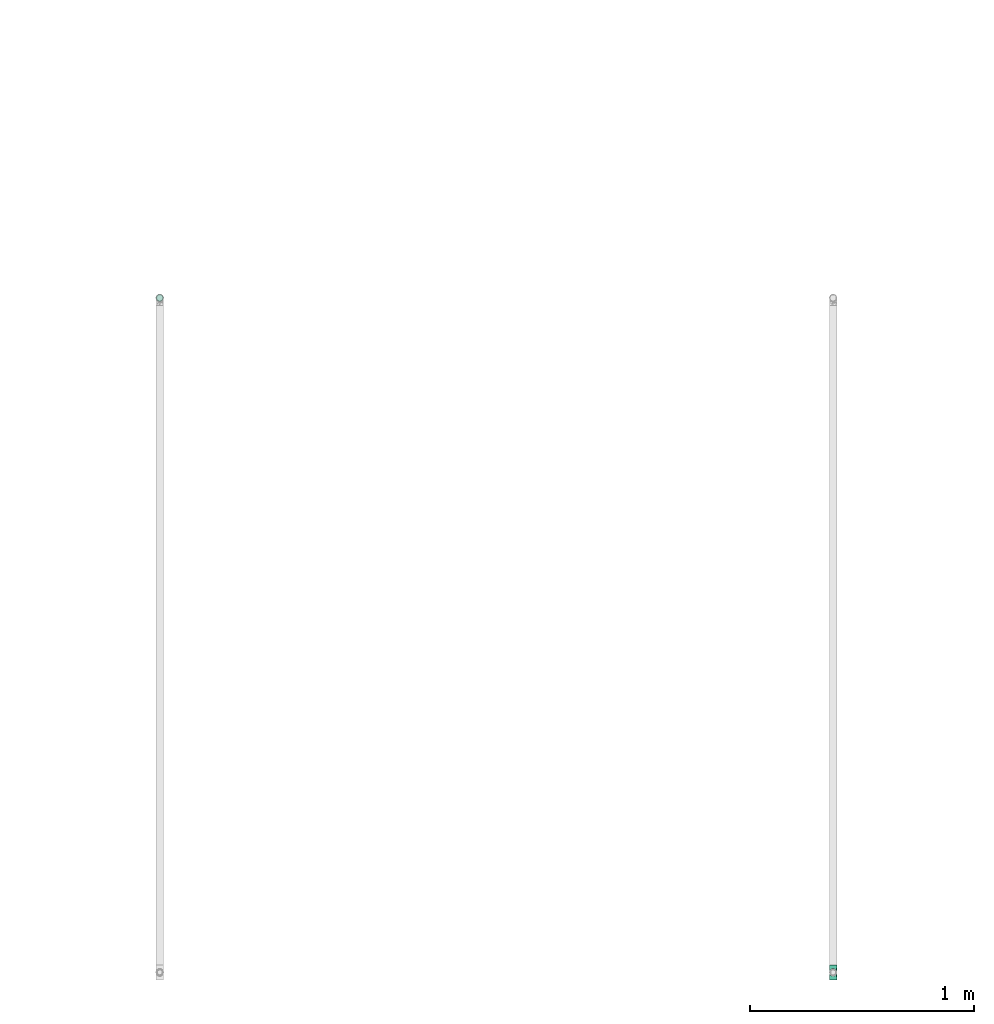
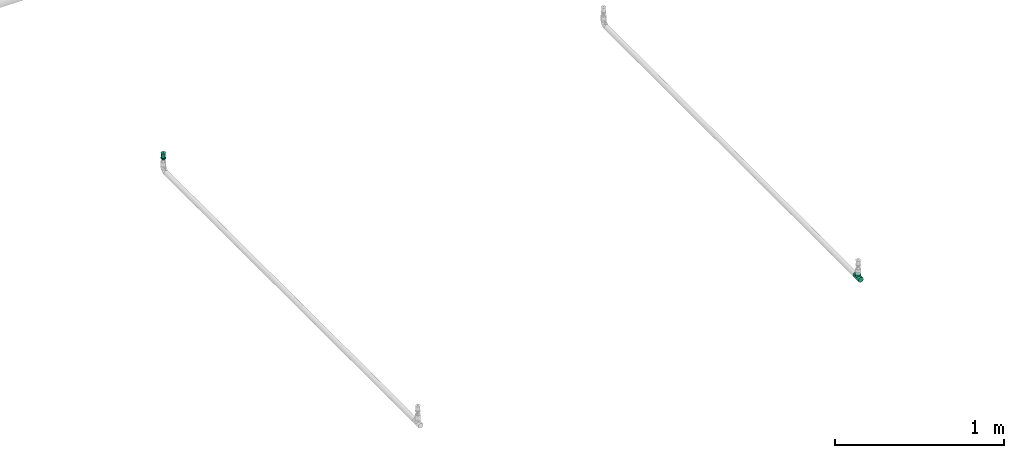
# One storey, part 24 of 94: 1 flow fitting, 1 flow terminal.
"""IFC2X3 building model written with IfcOpenShell, lengths in millimetres."""

from ifc_helpers import new_model, entity, si_unit, converted_unit, derived_unit, direction, frame, origin_with_axes, place, context, subcontext, project, spatial, open_shell, surface_model, source, transform, mapped, type_object, element, save


model = new_model("IFC2X3")

# Units and contexts
model_context = context("Model", 3, precision=0.01, world=frame((0.0, 4.29681676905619e-09, 0.0)), true_north=direction((4.01073788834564e-13, 1.0)))
plan_context = context("Plan", 3, precision=0.01, world=frame((0.0, 4.29681676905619e-09, 0.0)), true_north=direction((4.01073788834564e-13, 1.0)))
body_context = subcontext(model_context, "Body", "Model", "MODEL_VIEW")
ifc_project = project(units=[converted_unit("PLANEANGLEUNIT", "DEGREE", entity("IfcPositiveLengthMeasure", 0.0174532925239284), si_unit("PLANEANGLEUNIT", "RADIAN"), dimensions=[0, 0, 0, 0, 0, 0, 0]), si_unit("AREAUNIT", "SQUARE_METRE"), si_unit("LENGTHUNIT", "METRE", prefix="MILLI"), si_unit("MASSUNIT", "GRAM", prefix="KILO"), si_unit("POWERUNIT", "WATT"), si_unit("PRESSUREUNIT", "PASCAL"), si_unit("FORCEUNIT", "NEWTON", prefix="KILO"), si_unit("ELECTRICCURRENTUNIT", "AMPERE"), si_unit("THERMODYNAMICTEMPERATUREUNIT", "DEGREE_CELSIUS"), si_unit("TIMEUNIT", "SECOND"), si_unit("VOLUMEUNIT", "CUBIC_METRE"), derived_unit("LINEARVELOCITYUNIT", [(si_unit("LENGTHUNIT", "METRE"), 1), (si_unit("TIMEUNIT", "SECOND"), -1)]), derived_unit("VOLUMETRICFLOWRATEUNIT", [(si_unit("VOLUMEUNIT", "CUBIC_METRE"), 1), (si_unit("TIMEUNIT", "SECOND"), -1)]), derived_unit("THERMALTRANSMITTANCEUNIT", [(si_unit("POWERUNIT", "WATT"), 1), (si_unit("THERMODYNAMICTEMPERATUREUNIT", "KELVIN"), -1), (si_unit("AREAUNIT", "SQUARE_METRE"), -1)])], contexts=[model_context, plan_context])

# Site, building, storey
site_placement = place(None, frame((0.0, -4.29681676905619e-09, 0.0), z_axis=(0.0, 0.0, 1.0), x_axis=(1.0, 0.0, 0.0)))
site = spatial("IfcSite", under=ifc_project, at=site_placement, CompositionType="ELEMENT")
building_placement = place(site_placement, frame((0.0, 4.29681676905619e-09, 0.0), z_axis=(0.0, 0.0, 1.0), x_axis=(1.0, 0.0, 0.0)))
building = spatial("IfcBuilding", under=site, at=building_placement, Name="mc-building", CompositionType="ELEMENT")
storey_placement = place(building_placement, frame((0.0, 0.0, 200300.0), z_axis=(0.0, 0.0, 1.0), x_axis=(1.0, 0.0, 0.0)))
storey = spatial("IfcBuildingStorey", under=building, at=storey_placement, Name="Nivå C", CompositionType="ELEMENT", Elevation=200300.0)

# Flow fitting
pipe_fitting_type = type_object("IfcPipeFittingType", Name="magi_pipe_fe_tee_centric_90_NOR", PredefinedType="JUNCTION")
shared_shape_1 = source(origin_with_axes(), body_context, "Body", "SurfaceModel", [
    surface_model("IfcShellBasedSurfaceModel", [(-33.8, 4.37404, -16.32415), (-33.8, 0.0, -16.9), (-33.8, 16.32415, -4.37404), (-33.8, 8.45, -14.63583), (-33.8, 11.9501, -11.9501), (-33.8, 14.63583, -8.45), (-33.8, -16.9, 0.0), (-33.8, -11.9501, -11.9501), (-33.8, -14.63583, -8.45), (-33.8, -8.45, -14.63583), (-33.8, -4.37404, -16.32415), (-33.8, -16.32415, -4.37404), (-33.8, 14.63583, 8.45), (-33.8, 16.32415, 4.37404), (-33.8, -8.45, 14.63583), (-33.8, 8.45, 14.63583), (-33.8, 11.9501, 11.9501), (-33.8, 4.37404, 16.32415), (-33.8, 0.0, 16.9), (-33.8, -11.9501, 11.9501), (-33.8, -14.63583, 8.45), (-33.8, -16.32415, 4.37404), (-33.8, -4.37404, 16.32415), (-33.8, 16.9, 0.0), (33.8, 4.37404, -16.32415), (33.8, -16.9, 0.0), (33.8, 0.0, -16.9), (33.8, 14.63583, -8.45), (33.8, 8.45, -14.63583), (33.8, 16.32415, -4.37404), (33.8, 11.9501, -11.9501), (33.8, -16.32415, 4.37404), (33.8, -8.45, -14.63583), (33.8, -4.37404, -16.32415), (33.8, -11.9501, -11.9501), (33.8, -14.63583, -8.45), (33.8, -16.32415, -4.37404), (33.8, 16.32415, 4.37404), (33.8, 8.45, 14.63583), (33.8, 14.63583, 8.45), (33.8, 11.9501, 11.9501), (33.8, -8.45, 14.63583), (33.8, 4.37404, 16.32415), (33.8, -14.63583, 8.45), (33.8, -11.9501, 11.9501), (33.8, 0.0, 16.9), (33.8, -4.37404, 16.32415), (33.8, 16.9, 0.0), (16.28698, -16.28698, 4.51047), (16.9, -16.9, 0.0), (14.62704, -14.62704, 8.4652), (9.47213, -9.47213, 13.99602), (12.26343, -12.26343, 11.62834), (-16.9, -16.9, 0.0), (-16.28698, -16.28698, 4.51047), (-14.62704, -14.62704, 8.4652), (-12.26343, -12.26343, 11.62834), (-9.47213, -9.47213, 13.99602), (-6.42894, -6.42894, 15.62942), (6.42894, -6.42894, 15.62942), (3.24522, -3.24522, 16.58549), (0.0, 0.0, 16.9), (-3.24522, -3.24522, 16.58549), (3.24522, -3.24522, -16.58549), (0.0, 0.0, -16.9), (-3.24522, -3.24522, -16.58549), (-6.42894, -6.42894, -15.62942), (6.42894, -6.42894, -15.62942), (9.47213, -9.47213, -13.99602), (12.26343, -12.26343, -11.62834), (14.62704, -14.62704, -8.4652), (16.28698, -16.28698, -4.51047), (-9.47213, -9.47213, -13.99602), (-12.26343, -12.26343, -11.62834), (-16.28698, -16.28698, -4.51047), (-14.62704, -14.62704, -8.4652), (4.37404, -25.35, -16.32415), (-16.9, -25.35, 0.0), (0.0, -25.35, -16.9), (14.63583, -25.35, -8.45), (8.45, -25.35, -14.63583), (16.32415, -25.35, -4.37404), (11.9501, -25.35, -11.9501), (-11.9501, -25.35, -11.9501), (-8.45, -25.35, -14.63583), (-4.37404, -25.35, -16.32415), (-14.63583, -25.35, -8.45), (-16.32415, -25.35, -4.37404), (16.9, -25.35, 0.0), (8.45, -25.35, 14.63583), (16.32415, -25.35, 4.37404), (14.63583, -25.35, 8.45), (-8.45, -25.35, 14.63583), (11.9501, -25.35, 11.9501), (4.37404, -25.35, 16.32415), (-16.32415, -25.35, 4.37404), (-11.9501, -25.35, 11.9501), (-14.63583, -25.35, 8.45), (0.0, -25.35, 16.9), (-4.37404, -25.35, 16.32415)], [open_shell([[[0, 1, 2]], [[3, 0, 4]], [[0, 2, 5]], [[4, 0, 5]], [[6, 2, 1]], [[7, 8, 9]], [[1, 10, 9]], [[11, 6, 8]], [[1, 9, 8]], [[1, 8, 6]], [[6, 12, 2]], [[12, 13, 2]], [[14, 12, 6]], [[12, 14, 15]], [[16, 12, 15]], [[17, 15, 18]], [[19, 14, 20]], [[21, 20, 14]], [[22, 18, 14]], [[14, 6, 21]], [[14, 18, 15]], [[23, 2, 13]], [[24, 25, 26]], [[27, 24, 28]], [[27, 29, 24]], [[27, 28, 30]], [[31, 25, 24]], [[26, 32, 33]], [[26, 34, 32]], [[35, 25, 36]], [[35, 34, 26]], [[25, 35, 26]], [[24, 29, 31]], [[29, 37, 38]], [[38, 37, 39]], [[38, 31, 29]], [[38, 39, 40]], [[41, 38, 42]], [[43, 41, 44]], [[41, 43, 31]], [[41, 45, 46]], [[41, 31, 38]], [[42, 45, 41]], [[29, 47, 37]], [[31, 43, 48]], [[25, 31, 49]], [[49, 31, 48]], [[43, 50, 48]], [[44, 41, 51]], [[50, 43, 52]], [[51, 52, 44]], [[52, 43, 44]], [[53, 54, 21]], [[53, 21, 6]], [[21, 54, 20]], [[54, 55, 20]], [[56, 57, 19]], [[19, 20, 56]], [[19, 57, 14]], [[56, 20, 55]], [[14, 57, 58]], [[51, 41, 59]], [[60, 45, 61]], [[59, 46, 60]], [[46, 59, 41]], [[60, 46, 45]], [[61, 45, 42]], [[39, 37, 13]], [[16, 38, 40]], [[12, 40, 39]], [[42, 38, 15]], [[23, 37, 47]], [[62, 61, 18]], [[62, 22, 58]], [[22, 62, 18]], [[58, 22, 14]], [[61, 17, 18]], [[42, 17, 61]], [[15, 17, 42]], [[15, 38, 16]], [[12, 16, 40]], [[13, 12, 39]], [[37, 23, 13]], [[5, 27, 30]], [[23, 47, 29]], [[30, 28, 3]], [[27, 2, 29]], [[26, 33, 63]], [[26, 64, 24]], [[64, 26, 63]], [[28, 24, 0]], [[64, 0, 24]], [[4, 30, 3]], [[2, 27, 5]], [[5, 30, 4]], [[2, 23, 29]], [[65, 66, 10]], [[1, 0, 64]], [[1, 65, 10]], [[66, 9, 10]], [[0, 3, 28]], [[1, 64, 65]], [[63, 33, 67]], [[32, 34, 68]], [[69, 68, 34]], [[35, 70, 69]], [[69, 34, 35]], [[32, 68, 67]], [[36, 25, 49]], [[36, 71, 35]], [[71, 36, 49]], [[35, 71, 70]], [[72, 9, 66]], [[72, 7, 9]], [[7, 72, 73]], [[7, 73, 8]], [[74, 53, 11]], [[75, 74, 8]], [[74, 11, 8]], [[11, 53, 6]], [[75, 8, 73]], [[32, 67, 33]], [[76, 77, 78]], [[79, 76, 80]], [[79, 81, 76]], [[79, 80, 82]], [[77, 76, 81]], [[78, 83, 84]], [[84, 85, 78]], [[86, 77, 87]], [[83, 78, 86]], [[77, 86, 78]], [[81, 88, 77]], [[89, 88, 90]], [[89, 90, 91]], [[92, 77, 89]], [[89, 91, 93]], [[92, 89, 94]], [[95, 96, 97]], [[96, 95, 92]], [[92, 98, 99]], [[95, 77, 92]], [[94, 98, 92]], [[89, 77, 88]], [[77, 95, 53]], [[54, 53, 95]], [[97, 96, 56]], [[96, 92, 57]], [[95, 97, 54]], [[58, 92, 99]], [[55, 54, 97]], [[56, 55, 97]], [[58, 57, 92]], [[98, 61, 62]], [[58, 99, 62]], [[56, 96, 57]], [[62, 99, 98]], [[94, 60, 98]], [[89, 59, 94]], [[91, 90, 48]], [[52, 93, 91]], [[93, 51, 89]], [[49, 90, 88]], [[59, 60, 94]], [[51, 59, 89]], [[49, 48, 90]], [[50, 52, 91]], [[48, 50, 91]], [[51, 93, 52]], [[98, 60, 61]], [[88, 81, 49]], [[71, 49, 81]], [[79, 82, 69]], [[82, 80, 68]], [[81, 79, 71]], [[67, 80, 76]], [[70, 71, 79]], [[69, 70, 79]], [[67, 68, 80]], [[78, 64, 63]], [[67, 76, 63]], [[69, 82, 68]], [[63, 76, 78]], [[85, 65, 78]], [[84, 66, 85]], [[86, 87, 74]], [[86, 73, 83]], [[72, 84, 83]], [[53, 87, 77]], [[66, 65, 85]], [[72, 66, 84]], [[53, 74, 87]], [[75, 73, 86]], [[74, 75, 86]], [[72, 83, 73]], [[78, 65, 64]]])]),
])
flow_fitting_placement = place(storey_placement, frame((527508.12395, 400928.19532, 2900.0), z_axis=(-1.0, 0.0, 0.0), x_axis=(0.0, 1.0, 0.0)))
element("IfcFlowFitting", 1, at=flow_fitting_placement, inside=storey, type_object=pipe_fitting_type, Name="magi_pipe_fe_tee_centric_90_NOR", context=body_context, shape_type="MappedRepresentation", body=[
    mapped(shared_shape_1, transform((0.0, 0.0, 0.0), scale=1.0)),
])

# Flow terminal
fire_suppression_terminal_type = type_object("IfcFireSuppressionTerminalType", Name="68DGR-STD-STÅENDE", PredefinedType="NOTDEFINED")
shared_shape_2 = source(origin_with_axes(), body_context, "Body", "SurfaceModel", [
    surface_model("IfcShellBasedSurfaceModel", [(12.55704, 3.36465, 21.14766), (13.0, 0.0, 21.14766), (12.55704, -3.36465, 21.14766), (-12.55704, -3.36465, 21.14766), (-11.25833, -6.5, 21.14766), (-11.25833, -6.5, 51.0), (3.36465, -12.55704, 51.0), (3.36465, -12.55704, 21.14766), (6.5, -11.25833, 21.14766), (9.19239, -9.19239, 21.14766), (11.25833, -6.5, 21.14766), (9.19239, -9.19239, 51.0), (6.5, -11.25833, 51.0), (11.25833, -6.5, 51.0), (12.55704, -3.36465, 51.0), (13.0, 0.0, 51.0), (9.19239, 9.19239, 51.0), (11.25833, 6.5, 21.14766), (9.19239, 9.19239, 21.14766), (11.25833, 6.5, 51.0), (12.55704, 3.36465, 51.0), (6.5, 11.25833, 51.0), (6.5, 11.25833, 21.14766), (3.36465, 12.55704, 21.14766), (3.36465, 12.55704, 51.0), (-11.25833, 6.5, 51.0), (-11.25833, 6.5, 21.14766), (-12.55704, 3.36465, 21.14766), (0.0, -2.5, 51.0), (-2.5, 0.0, 51.0), (0.0, 2.5, 51.0), (2.5, 0.0, 51.0), (11.31371, 11.31371, 53.0), (-11.31371, 11.31371, 53.0), (-11.31371, -11.31371, 53.0), (11.31371, -11.31371, 53.0), (1.62635, 1.62635, 51.0), (2.16506, 1.25, 51.0), (1.99186, 1.15, 51.0), (-1.76777, 1.76777, 51.0), (-1.25, 2.16506, 51.0), (-1.62635, 1.62635, 51.0), (1.99186, -1.15, 51.0), (2.16506, -1.25, 51.0), (1.62635, -1.62635, 51.0), (-1.62635, -1.62635, 51.0), (-1.25, -2.16506, 51.0), (-1.76777, -1.76777, 51.0), (0.0, 7.3, 0.0), (1.94114, 7.24444, 0.0), (1.88938, 7.05126, 0.0), (5.16188, 5.16188, 0.0), (6.49519, 3.75, 0.0), (6.32199, 3.65, 0.0), (-5.3033, 5.3033, 0.0), (-3.75, 6.49519, 0.0), (-5.16188, 5.16188, 0.0), (6.32199, -3.65, 0.0), (6.49519, -3.75, 0.0), (5.16188, -5.16188, 0.0), (1.88938, -7.05126, 0.0), (1.94114, -7.24444, 0.0), (0.0, -7.3, 0.0), (-5.16188, -5.16188, 0.0), (-3.75, -6.49519, 0.0), (-5.3033, -5.3033, 0.0), (-3.36465, 12.55704, 51.0), (-6.5, 11.25833, 51.0), (0.0, 13.0, 51.0), (-9.19239, 9.19239, 51.0), (0.0, -13.0, 51.0), (-9.19239, -9.19239, 51.0), (-12.55704, -3.36465, 51.0), (-6.5, -11.25833, 51.0), (-3.36465, -12.55704, 51.0), (-7.5, 0.0, -0.1), (-7.24444, 1.94114, 0.1), (-7.24444, 1.94114, -0.1), (-6.49519, 3.75, 0.1), (-6.49519, 3.75, -0.1), (-3.75, 6.49519, -0.1), (-5.3033, 5.3033, -0.1), (-3.75, 6.49519, 0.1), (-5.3033, 5.3033, 0.1), (-1.94114, 7.24444, -0.1), (-1.94114, 7.24444, 0.1), (-7.5, 0.0, 0.1), (0.0, 7.5, 0.1), (0.0, 7.5, -0.1), (1.94114, 7.24444, 0.1), (1.94114, 7.24444, -0.1), (3.75, 6.49519, 0.1), (3.75, 6.49519, -0.1), (6.49519, 3.75, -0.1), (5.3033, 5.3033, -0.1), (6.49519, 3.75, 0.1), (5.3033, 5.3033, 0.1), (7.24444, 1.94114, -0.1), (7.24444, 1.94114, 0.1), (7.5, 0.0, 0.1), (7.5, 0.0, -0.1), (-7.24444, -1.94114, 0.1), (7.24444, -1.94114, 0.1), (5.3033, -5.3033, 0.1), (6.49519, -3.75, 0.1), (-6.49519, -3.75, 0.1), (0.0, -7.5, 0.1), (1.94114, -7.24444, 0.1), (3.75, -6.49519, 0.1), (-3.75, -6.49519, 0.1), (-1.94114, -7.24444, 0.1), (-5.3033, -5.3033, 0.1), (0.0, -7.5, -0.1), (-6.49519, -3.75, -0.1), (1.94114, -7.24444, -0.1), (3.75, -6.49519, -0.1), (5.3033, -5.3033, -0.1), (7.24444, -1.94114, -0.1), (6.49519, -3.75, -0.1), (-3.75, -6.49519, -0.1), (-5.3033, -5.3033, -0.1), (-1.94114, -7.24444, -0.1), (-7.24444, -1.94114, -0.1), (16.0, 0.0, 53.0), (0.0, -16.0, 53.0), (-16.0, 0.0, 53.0), (0.0, 16.0, 53.0), (0.64705, 2.41481, 57.0), (0.0, 2.5, 57.0), (1.25, 2.16506, 57.0), (-2.5, 0.0, 57.0), (1.76777, 1.76777, 57.0), (2.41481, 0.64705, 57.0), (2.16506, 1.25, 57.0), (-0.64705, 2.41481, 57.0), (-1.25, 2.16506, 57.0), (-1.76777, 1.76777, 57.0), (-2.16506, 1.25, 57.0), (-2.41481, 0.64705, 57.0), (2.5, 0.0, 57.0), (1.76777, -1.76777, 57.0), (2.16506, -1.25, 57.0), (2.41481, -0.64705, 57.0), (-2.41481, -0.64705, 57.0), (0.64705, -2.41481, 57.0), (1.25, -2.16506, 57.0), (0.0, -2.5, 57.0), (-1.76777, -1.76777, 57.0), (-2.16506, -1.25, 57.0), (-1.25, -2.16506, 57.0), (-0.64705, -2.41481, 57.0), (1.15, -1.99186, 51.0), (1.76777, -1.76777, 51.0), (1.25, -2.16506, 51.0), (0.59528, -2.22163, 51.0), (0.0, -2.3, 51.0), (0.64705, -2.41481, 51.0), (2.22163, -0.59528, 51.0), (2.3, 0.0, 51.0), (2.41481, -0.64705, 51.0), (-0.64705, -2.41481, 51.0), (-0.59528, -2.22163, 51.0), (-1.15, -1.99186, 51.0), (-2.16506, -1.25, 51.0), (-1.99186, -1.15, 51.0), (-2.22163, -0.59528, 51.0), (-2.3, 0.0, 51.0), (-2.41481, -0.64705, 51.0), (2.22163, 0.59528, 51.0), (2.41481, 0.64705, 51.0), (1.76777, 1.76777, 51.0), (1.15, 1.99186, 51.0), (1.25, 2.16506, 51.0), (0.59528, 2.22163, 51.0), (0.0, 2.3, 51.0), (0.64705, 2.41481, 51.0), (-1.99186, 1.15, 51.0), (-2.16506, 1.25, 51.0), (-2.41481, 0.64705, 51.0), (-2.22163, 0.59528, 51.0), (-0.64705, 2.41481, 51.0), (-0.59528, 2.22163, 51.0), (-1.15, 1.99186, 51.0), (-2.22163, 0.59528, 56.8), (-1.99186, 1.15, 56.8), (-1.15, 1.99186, 56.8), (-1.62635, 1.62635, 56.8), (-0.59528, 2.22163, 56.8), (-2.3, 0.0, 56.8), (0.0, 2.3, 56.8), (0.59528, 2.22163, 56.8), (1.15, 1.99186, 56.8), (1.99186, 1.15, 56.8), (1.62635, 1.62635, 56.8), (2.22163, 0.59528, 56.8), (2.3, 0.0, 56.8), (2.22163, -0.59528, 56.8), (1.99186, -1.15, 56.8), (1.62635, -1.62635, 56.8), (1.15, -1.99186, 56.8), (0.59528, -2.22163, 56.8), (0.0, -2.3, 56.8), (-1.99186, -1.15, 56.8), (-2.22163, -0.59528, 56.8), (-1.62635, -1.62635, 56.8), (-0.59528, -2.22163, 56.8), (-1.15, -1.99186, 56.8), (8.0, -13.85641, 13.0), (4.1411, -15.45481, 13.0), (0.0, -16.0, 13.0), (-4.1411, -15.45481, 13.0), (15.45481, -4.1411, 13.0), (13.85641, -8.0, 13.0), (11.31371, -11.31371, 13.0), (-16.0, 0.0, 13.0), (-8.0, -13.85641, 13.0), (-11.31371, -11.31371, 13.0), (-13.85641, -8.0, 13.0), (-15.45481, -4.1411, 13.0), (15.45481, 4.1411, 13.0), (4.1411, 15.45481, 13.0), (13.85641, 8.0, 13.0), (8.0, 13.85641, 13.0), (11.31371, 11.31371, 13.0), (-15.45481, 4.1411, 13.0), (-11.31371, 11.31371, 13.0), (-8.0, 13.85641, 13.0), (-13.85641, 8.0, 13.0), (-4.1411, 15.45481, 13.0), (0.0, 16.0, 13.0), (16.0, 0.0, 13.0), (7.05126, 1.88938, 12.8), (1.88938, 7.05126, 12.8), (3.65, 6.32199, 12.8), (6.32199, 3.65, 12.8), (5.16188, 5.16188, 12.8), (7.3, 0.0, 12.8), (0.0, 7.3, 12.8), (-3.65, 6.32199, 12.8), (-1.88938, 7.05126, 12.8), (-5.16188, 5.16188, 12.8), (-7.05126, 1.88938, 12.8), (-6.32199, 3.65, 12.8), (7.05126, -1.88938, 12.8), (0.0, -7.3, 12.8), (6.32199, -3.65, 12.8), (3.65, -6.32199, 12.8), (5.16188, -5.16188, 12.8), (1.88938, -7.05126, 12.8), (-7.3, 0.0, 12.8), (-6.32199, -3.65, 12.8), (-7.05126, -1.88938, 12.8), (-1.88938, -7.05126, 12.8), (-5.16188, -5.16188, 12.8), (-3.65, -6.32199, 12.8), (-7.05126, 1.88938, 0.0), (-7.3, 0.0, 0.0), (-6.32199, 3.65, 0.0), (-3.65, 6.32199, 0.0), (-1.88938, 7.05126, 0.0), (3.65, 6.32199, 0.0), (7.05126, 1.88938, 0.0), (7.3, 0.0, 0.0), (3.75, 6.49519, 13.0), (1.94114, 7.24444, 13.0), (7.5, 0.0, 13.0), (5.3033, 5.3033, 13.0), (7.24444, 1.94114, 13.0), (6.49519, 3.75, 13.0), (-5.3033, 5.3033, 13.0), (-7.24444, -1.94114, 13.0), (-1.94114, 7.24444, 13.0), (-3.75, 6.49519, 13.0), (0.0, 7.5, 13.0), (-6.49519, 3.75, 13.0), (-7.24444, 1.94114, 13.0), (7.24444, -1.94114, 13.0), (5.3033, -5.3033, 13.0), (6.49519, -3.75, 13.0), (-6.49519, -3.75, 13.0), (0.0, -7.5, 13.0), (1.94114, -7.24444, 13.0), (3.75, -6.49519, 13.0), (-7.5, 0.0, 13.0), (-3.75, -6.49519, 13.0), (-1.94114, -7.24444, 13.0), (-5.3033, -5.3033, 13.0), (3.65, -6.32199, 0.0), (5.3033, -5.3033, 0.0), (3.75, -6.49519, 0.0), (0.0, -7.5, 0.0), (7.05126, -1.88938, 0.0), (7.24444, -1.94114, 0.0), (7.5, 0.0, 0.0), (-1.94114, -7.24444, 0.0), (-1.88938, -7.05126, 0.0), (-3.65, -6.32199, 0.0), (-6.49519, -3.75, 0.0), (-6.32199, -3.65, 0.0), (-7.05126, -1.88938, 0.0), (-7.24444, -1.94114, 0.0), (-7.5, 0.0, 0.0), (7.24444, 1.94114, 0.0), (5.3033, 5.3033, 0.0), (3.75, 6.49519, 0.0), (0.0, 7.5, 0.0), (-6.49519, 3.75, 0.0), (-7.24444, 1.94114, 0.0), (-1.94114, 7.24444, 0.0), (-12.55704, 3.36465, 51.0), (-13.0, 0.0, 51.0), (0.0, -13.0, 21.14766), (-3.36465, -12.55704, 21.14766), (-6.5, -11.25833, 21.14766), (-9.19239, -9.19239, 21.14766), (-13.0, 0.0, 21.14766), (-9.19239, 9.19239, 21.14766), (-6.5, 11.25833, 21.14766), (-3.36465, 12.55704, 21.14766), (0.0, 13.0, 21.14766), (11.31371, 11.31371, 19.0), (8.0, 13.85641, 19.0), (4.1411, 15.45481, 19.0), (-8.0, 13.85641, 19.0), (16.0, 0.0, 19.0), (15.45481, 4.1411, 19.0), (13.85641, 8.0, 19.0), (-4.1411, 15.45481, 19.0), (0.0, 16.0, 19.0), (-11.31371, 11.31371, 19.0), (-13.85641, 8.0, 19.0), (-15.45481, 4.1411, 19.0), (15.45481, -4.1411, 19.0), (11.31371, -11.31371, 19.0), (13.85641, -8.0, 19.0), (-16.0, 0.0, 19.0), (0.0, -16.0, 19.0), (4.1411, -15.45481, 19.0), (8.0, -13.85641, 19.0), (-13.85641, -8.0, 19.0), (-11.31371, -11.31371, 19.0), (-15.45481, -4.1411, 19.0), (-8.0, -13.85641, 19.0), (-4.1411, -15.45481, 19.0)], [open_shell([[[0, 1, 2]], [[3, 4, 5]], [[6, 7, 8]], [[9, 10, 11]], [[9, 11, 12]], [[10, 13, 11]], [[14, 13, 2]], [[1, 15, 14]], [[16, 17, 18]], [[0, 19, 20]], [[20, 15, 1]], [[21, 16, 18]], [[22, 23, 24]], [[16, 19, 17]], [[25, 26, 27]], [[28, 29, 30]], [[30, 31, 28]], [[31, 30, 32]], [[33, 30, 29]], [[29, 28, 34]], [[35, 28, 31]], [[36, 37, 38]], [[39, 40, 41]], [[42, 43, 44]], [[45, 46, 47]], [[48, 49, 50]], [[51, 52, 53]], [[54, 55, 56]], [[57, 58, 59]], [[60, 61, 62]], [[63, 64, 65]], [[66, 67, 68]], [[67, 24, 68]], [[69, 25, 67]], [[15, 20, 14]], [[70, 6, 12]], [[5, 71, 72]], [[73, 74, 71]], [[72, 71, 74]], [[75, 76, 77]], [[77, 78, 79]], [[80, 81, 82]], [[83, 81, 79]], [[84, 80, 85]], [[76, 78, 77]], [[75, 86, 76]], [[80, 82, 85]], [[82, 81, 83]], [[79, 78, 83]], [[84, 85, 87]], [[87, 88, 84]], [[88, 89, 90]], [[90, 91, 92]], [[93, 94, 95]], [[96, 94, 92]], [[97, 93, 98]], [[91, 96, 92]], [[90, 89, 91]], [[97, 98, 99]], [[98, 93, 95]], [[94, 96, 95]], [[97, 99, 100]], [[87, 89, 88]], [[91, 89, 99]], [[96, 91, 98]], [[91, 99, 98]], [[95, 96, 98]], [[89, 83, 101]], [[85, 82, 87]], [[83, 87, 82]], [[78, 76, 83]], [[89, 87, 83]], [[76, 101, 83]], [[102, 99, 89]], [[103, 104, 102]], [[89, 105, 103]], [[103, 106, 107]], [[108, 103, 107]], [[106, 103, 105]], [[89, 101, 105]], [[101, 76, 86]], [[109, 110, 111]], [[105, 111, 110]], [[106, 105, 110]], [[103, 102, 89]], [[112, 113, 114]], [[115, 114, 116]], [[117, 118, 116]], [[113, 116, 114]], [[116, 113, 117]], [[119, 120, 121]], [[113, 121, 120]], [[121, 113, 112]], [[113, 122, 117]], [[75, 77, 122]], [[100, 117, 122]], [[100, 81, 97]], [[93, 97, 90]], [[90, 92, 94]], [[93, 90, 94]], [[90, 97, 81]], [[79, 81, 77]], [[77, 81, 122]], [[84, 88, 80]], [[81, 80, 88]], [[81, 88, 90]], [[100, 122, 81]], [[100, 102, 117]], [[117, 104, 118]], [[115, 116, 108]], [[103, 116, 118]], [[114, 115, 107]], [[102, 104, 117]], [[100, 99, 102]], [[115, 108, 107]], [[108, 116, 103]], [[118, 104, 103]], [[114, 107, 106]], [[106, 112, 114]], [[112, 110, 121]], [[121, 109, 119]], [[113, 120, 105]], [[111, 120, 119]], [[122, 113, 101]], [[109, 111, 119]], [[121, 110, 109]], [[122, 101, 86]], [[101, 113, 105]], [[120, 111, 105]], [[122, 86, 75]], [[106, 110, 112]], [[31, 123, 35]], [[35, 124, 28]], [[124, 34, 28]], [[29, 34, 125]], [[33, 32, 126]], [[33, 125, 124]], [[124, 32, 33]], [[124, 35, 123]], [[124, 125, 34]], [[123, 32, 124]], [[29, 125, 33]], [[33, 126, 30]], [[126, 32, 30]], [[31, 32, 123]], [[127, 128, 129]], [[129, 130, 131]], [[132, 131, 130]], [[133, 131, 132]], [[130, 129, 128]], [[134, 135, 128]], [[136, 128, 135]], [[137, 138, 136]], [[128, 136, 130]], [[138, 130, 136]], [[139, 132, 130]], [[140, 141, 142]], [[143, 140, 139]], [[144, 140, 143]], [[145, 140, 144]], [[146, 144, 147]], [[139, 130, 143]], [[143, 148, 144]], [[149, 150, 147]], [[144, 148, 147]], [[146, 147, 150]], [[140, 142, 139]], [[151, 152, 153]], [[154, 151, 153]], [[155, 154, 156]], [[153, 156, 154]], [[28, 155, 156]], [[44, 152, 151]], [[157, 158, 159]], [[31, 159, 158]], [[43, 157, 159]], [[152, 44, 43]], [[157, 43, 42]], [[160, 161, 28]], [[161, 155, 28]], [[162, 161, 160]], [[160, 46, 162]], [[162, 46, 45]], [[47, 163, 164]], [[165, 164, 163]], [[45, 47, 164]], [[166, 165, 167]], [[163, 167, 165]], [[29, 166, 167]], [[168, 169, 31]], [[38, 169, 168]], [[169, 38, 37]], [[170, 37, 36]], [[171, 172, 170]], [[173, 172, 171]], [[174, 175, 173]], [[172, 173, 175]], [[30, 175, 174]], [[170, 36, 171]], [[39, 176, 177]], [[41, 176, 39]], [[178, 177, 176]], [[178, 179, 29]], [[176, 179, 178]], [[179, 166, 29]], [[180, 30, 181]], [[182, 180, 181]], [[182, 41, 40]], [[180, 182, 40]], [[181, 30, 174]], [[31, 158, 168]], [[29, 138, 178]], [[178, 137, 177]], [[40, 39, 135]], [[136, 39, 177]], [[180, 40, 134]], [[138, 137, 178]], [[29, 130, 138]], [[40, 135, 134]], [[135, 39, 136]], [[177, 137, 136]], [[180, 134, 128]], [[128, 30, 180]], [[30, 127, 175]], [[175, 129, 172]], [[37, 170, 133]], [[131, 170, 172]], [[169, 37, 132]], [[129, 131, 172]], [[175, 127, 129]], [[169, 132, 139]], [[132, 37, 133]], [[170, 131, 133]], [[169, 139, 31]], [[128, 127, 30]], [[179, 183, 166]], [[176, 184, 179]], [[185, 41, 182]], [[176, 41, 186]], [[187, 182, 181]], [[179, 184, 183]], [[183, 188, 166]], [[187, 185, 182]], [[186, 41, 185]], [[186, 184, 176]], [[189, 187, 181]], [[181, 174, 189]], [[173, 190, 174]], [[171, 191, 173]], [[192, 36, 38]], [[171, 36, 193]], [[194, 38, 168]], [[171, 193, 191]], [[191, 190, 173]], [[195, 194, 168]], [[192, 38, 194]], [[192, 193, 36]], [[158, 195, 168]], [[174, 190, 189]], [[31, 142, 159]], [[159, 141, 43]], [[153, 152, 145]], [[140, 152, 43]], [[156, 153, 144]], [[142, 141, 159]], [[31, 139, 142]], [[153, 145, 144]], [[145, 152, 140]], [[43, 141, 140]], [[156, 144, 146]], [[146, 28, 156]], [[28, 150, 160]], [[160, 149, 46]], [[163, 47, 148]], [[147, 47, 46]], [[167, 163, 143]], [[149, 147, 46]], [[160, 150, 149]], [[167, 143, 130]], [[143, 163, 148]], [[47, 147, 148]], [[167, 130, 29]], [[146, 150, 28]], [[190, 191, 193]], [[190, 193, 195]], [[194, 195, 193]], [[194, 193, 192]], [[190, 195, 186]], [[189, 185, 187]], [[185, 189, 186]], [[186, 183, 184]], [[186, 189, 190]], [[186, 196, 183]], [[186, 195, 196]], [[196, 197, 198]], [[196, 198, 199]], [[199, 200, 201]], [[199, 201, 196]], [[196, 201, 202]], [[188, 202, 203]], [[183, 202, 188]], [[204, 205, 206]], [[205, 204, 202]], [[201, 205, 202]], [[202, 183, 196]], [[157, 196, 158]], [[42, 197, 157]], [[199, 44, 151]], [[42, 44, 198]], [[200, 151, 154]], [[157, 197, 196]], [[196, 195, 158]], [[200, 199, 151]], [[198, 44, 199]], [[198, 197, 42]], [[201, 200, 154]], [[154, 155, 201]], [[161, 205, 155]], [[162, 206, 161]], [[202, 45, 164]], [[162, 45, 204]], [[203, 164, 165]], [[162, 204, 206]], [[206, 205, 161]], [[188, 203, 165]], [[202, 164, 203]], [[202, 204, 45]], [[166, 188, 165]], [[155, 205, 201]], [[207, 208, 209]], [[207, 209, 210]], [[211, 212, 213]], [[213, 207, 214]], [[211, 213, 214]], [[215, 216, 210]], [[217, 210, 216]], [[217, 218, 210]], [[218, 207, 210]], [[218, 214, 207]], [[214, 219, 211]], [[220, 219, 214]], [[221, 219, 220]], [[220, 222, 223]], [[221, 220, 223]], [[214, 224, 220]], [[225, 226, 227]], [[224, 227, 226]], [[228, 229, 226]], [[220, 224, 226]], [[226, 229, 220]], [[219, 230, 211]], [[231, 232, 233]], [[234, 233, 235]], [[231, 236, 232]], [[231, 233, 234]], [[232, 236, 237]], [[237, 238, 239]], [[238, 237, 240]], [[240, 241, 242]], [[240, 237, 236]], [[236, 241, 240]], [[236, 243, 241]], [[244, 243, 245]], [[246, 245, 247]], [[246, 248, 244]], [[246, 244, 245]], [[243, 244, 249]], [[249, 250, 251]], [[250, 249, 252]], [[253, 252, 254]], [[252, 253, 250]], [[249, 244, 252]], [[243, 249, 241]], [[255, 241, 256]], [[257, 242, 255]], [[238, 56, 258]], [[257, 56, 240]], [[239, 258, 259]], [[255, 242, 241]], [[241, 249, 256]], [[239, 238, 258]], [[240, 56, 238]], [[240, 242, 257]], [[237, 239, 259]], [[259, 48, 237]], [[50, 232, 48]], [[260, 233, 50]], [[234, 51, 53]], [[260, 51, 235]], [[231, 53, 261]], [[260, 235, 233]], [[233, 232, 50]], [[236, 231, 261]], [[234, 53, 231]], [[234, 235, 51]], [[262, 236, 261]], [[48, 232, 237]], [[263, 264, 265]], [[266, 263, 267]], [[263, 265, 267]], [[268, 266, 267]], [[264, 269, 270]], [[271, 272, 273]], [[269, 273, 272]], [[274, 275, 269]], [[264, 273, 269]], [[275, 270, 269]], [[276, 265, 264]], [[277, 278, 276]], [[264, 279, 277]], [[277, 280, 281]], [[282, 277, 281]], [[280, 277, 279]], [[264, 270, 279]], [[270, 275, 283]], [[284, 285, 286]], [[279, 286, 285]], [[280, 279, 285]], [[277, 276, 264]], [[287, 288, 289]], [[60, 287, 289]], [[290, 62, 61]], [[289, 61, 60]], [[59, 288, 287]], [[291, 262, 292]], [[293, 292, 262]], [[58, 291, 292]], [[288, 59, 58]], [[291, 58, 57]], [[294, 295, 290]], [[296, 295, 294]], [[294, 64, 296]], [[64, 63, 296]], [[295, 62, 290]], [[65, 297, 298]], [[299, 298, 297]], [[63, 65, 298]], [[256, 299, 300]], [[297, 300, 299]], [[301, 256, 300]], [[261, 302, 293]], [[53, 302, 261]], [[302, 53, 52]], [[303, 52, 51]], [[260, 304, 303]], [[50, 304, 260]], [[304, 50, 49]], [[305, 49, 48]], [[303, 51, 260]], [[54, 257, 306]], [[56, 257, 54]], [[307, 306, 257]], [[307, 255, 301]], [[257, 255, 307]], [[255, 256, 301]], [[308, 305, 259]], [[258, 308, 259]], [[55, 258, 56]], [[308, 258, 55]], [[259, 305, 48]], [[293, 262, 261]], [[301, 275, 307]], [[307, 274, 306]], [[55, 54, 272]], [[269, 54, 306]], [[308, 55, 271]], [[275, 274, 307]], [[301, 283, 275]], [[55, 272, 271]], [[272, 54, 269]], [[306, 274, 269]], [[308, 271, 273]], [[273, 305, 308]], [[305, 264, 49]], [[49, 263, 304]], [[52, 303, 268]], [[266, 303, 304]], [[302, 52, 267]], [[263, 266, 304]], [[49, 264, 263]], [[302, 267, 265]], [[267, 52, 268]], [[303, 266, 268]], [[302, 265, 293]], [[273, 264, 305]], [[293, 276, 292]], [[292, 278, 58]], [[289, 288, 282]], [[277, 288, 58]], [[61, 289, 281]], [[276, 278, 292]], [[293, 265, 276]], [[289, 282, 281]], [[282, 288, 277]], [[58, 278, 277]], [[61, 281, 280]], [[280, 290, 61]], [[290, 285, 294]], [[294, 284, 64]], [[297, 65, 279]], [[286, 65, 64]], [[300, 297, 270]], [[284, 286, 64]], [[294, 285, 284]], [[300, 270, 283]], [[270, 297, 279]], [[65, 286, 279]], [[300, 283, 301]], [[280, 285, 290]], [[291, 243, 262]], [[57, 245, 291]], [[246, 59, 287]], [[57, 59, 247]], [[248, 287, 60]], [[291, 245, 243]], [[243, 236, 262]], [[248, 246, 287]], [[247, 59, 246]], [[247, 245, 57]], [[244, 248, 60]], [[60, 62, 244]], [[295, 252, 62]], [[296, 254, 295]], [[250, 63, 298]], [[296, 63, 253]], [[251, 298, 299]], [[296, 253, 254]], [[254, 252, 295]], [[249, 251, 299]], [[250, 298, 251]], [[250, 253, 63]], [[256, 249, 299]], [[62, 252, 244]], [[16, 21, 24]], [[20, 16, 24]], [[24, 67, 72]], [[19, 16, 20]], [[24, 72, 20]], [[25, 72, 67]], [[309, 310, 25]], [[11, 13, 14]], [[72, 11, 20]], [[74, 12, 11]], [[12, 74, 70]], [[72, 25, 310]], [[72, 74, 11]], [[11, 14, 20]], [[8, 7, 311]], [[8, 311, 312]], [[2, 10, 9]], [[3, 9, 8]], [[3, 26, 9]], [[313, 314, 312]], [[3, 312, 314]], [[4, 3, 314]], [[3, 8, 312]], [[315, 26, 3]], [[2, 9, 26]], [[0, 2, 26]], [[17, 0, 18]], [[23, 22, 18]], [[0, 23, 18]], [[23, 0, 26]], [[316, 317, 26]], [[26, 315, 27]], [[318, 319, 317]], [[23, 26, 317]], [[23, 317, 319]], [[316, 26, 25]], [[318, 317, 67]], [[69, 317, 316]], [[319, 318, 66]], [[310, 309, 315]], [[27, 315, 309]], [[25, 27, 309]], [[25, 69, 316]], [[317, 69, 67]], [[67, 66, 318]], [[66, 68, 319]], [[22, 21, 18]], [[0, 17, 19]], [[1, 0, 20]], [[68, 24, 23]], [[24, 21, 22]], [[319, 68, 23]], [[1, 14, 2]], [[2, 13, 10]], [[6, 311, 7]], [[6, 8, 12]], [[12, 8, 9]], [[6, 70, 311]], [[313, 312, 74]], [[313, 73, 314]], [[71, 4, 314]], [[315, 3, 72]], [[70, 74, 312]], [[74, 73, 313]], [[73, 71, 314]], [[71, 5, 4]], [[3, 5, 72]], [[72, 310, 315]], [[311, 70, 312]], [[320, 321, 322]], [[320, 322, 323]], [[320, 324, 325]], [[326, 320, 325]], [[324, 320, 323]], [[327, 323, 328]], [[323, 322, 328]], [[329, 330, 323]], [[331, 323, 330]], [[323, 331, 324]], [[331, 332, 324]], [[333, 334, 332]], [[335, 333, 331]], [[336, 337, 338]], [[335, 338, 333]], [[338, 335, 336]], [[339, 340, 341]], [[335, 341, 340]], [[342, 343, 340]], [[335, 340, 343]], [[343, 336, 335]], [[332, 331, 333]], [[214, 331, 224]], [[224, 330, 227]], [[226, 225, 323]], [[329, 225, 227]], [[228, 226, 327]], [[331, 330, 224]], [[214, 335, 331]], [[226, 323, 327]], [[323, 225, 329]], [[227, 330, 329]], [[228, 327, 328]], [[328, 229, 228]], [[229, 322, 220]], [[220, 321, 222]], [[221, 223, 326]], [[320, 223, 222]], [[219, 221, 325]], [[321, 320, 222]], [[220, 322, 321]], [[219, 325, 324]], [[325, 221, 326]], [[223, 320, 326]], [[219, 324, 230]], [[328, 322, 229]], [[230, 332, 211]], [[211, 334, 212]], [[207, 213, 338]], [[333, 213, 212]], [[208, 207, 337]], [[332, 334, 211]], [[230, 324, 332]], [[207, 338, 337]], [[338, 213, 333]], [[212, 334, 333]], [[208, 337, 336]], [[336, 209, 208]], [[209, 343, 210]], [[210, 342, 215]], [[217, 216, 339]], [[340, 216, 215]], [[218, 217, 341]], [[342, 340, 215]], [[210, 343, 342]], [[218, 341, 335]], [[341, 217, 339]], [[216, 340, 339]], [[218, 335, 214]], [[336, 343, 209]]])]),
])
flow_terminal_placement = place(storey_placement, frame((524508.12395, 403933.19532, 2972.0), z_axis=(0.0, 0.0, 1.0), x_axis=(-1.0, 0.0, 0.0)))
element("IfcFlowTerminal", 2, at=flow_terminal_placement, inside=storey, type_object=fire_suppression_terminal_type, Name="68DGR-STD-STÅENDE", context=body_context, shape_type="MappedRepresentation", body=[
    mapped(shared_shape_2, transform((0.0, 0.0, 0.0), scale=1.0)),
])

save(model, "model.ifc")
